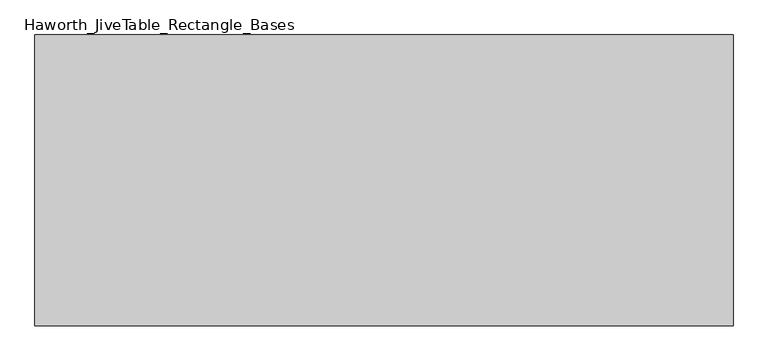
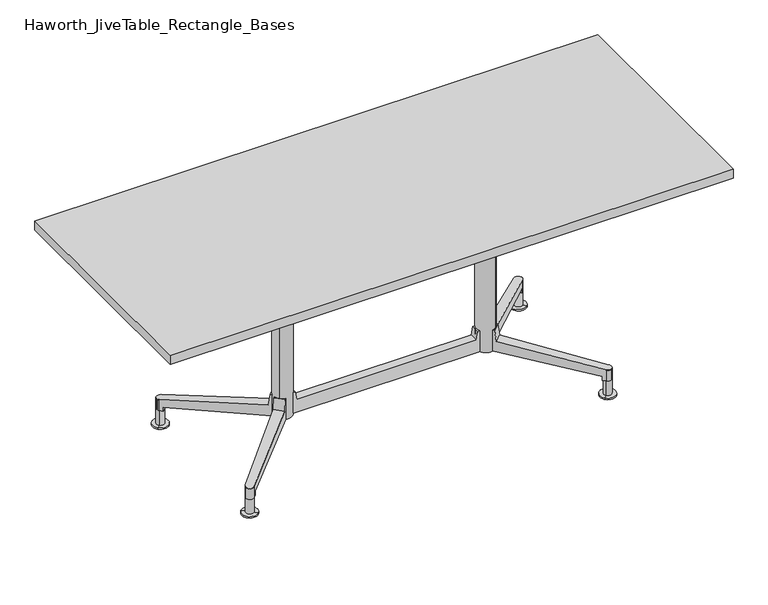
"""IFC4 building model written with IfcOpenShell, lengths in millimetres: furniture geometry, Haworth_JiveTable_Rectangle_Bases : 30d 72w 29h - Bridge Base - With Glides."""

from ifc_helpers import new_model, si_unit, point, frame, frame_2d, origin, place, context, project, spatial, polyline, circle_curve, ellipse_curve, trimmed, segment, composite_curve, outline, extrude, source, transform, mapped, element, save
from ifc_brep_helpers import plane_surface, cylinder_surface, revolved_surface, advanced_brep


def haworth_jivetable_rectangle_bases_99646251(model_context):
    return source(origin(), model_context, "Body", "SolidModel", [
        advanced_brep(
        [(336.1202188, -29.5809469, 173.0375), (340.1956175, -33.5622418, 173.0375), (364.0160892, -10.3334455, 173.0375), (359.6080779, -5.8131549, 173.0375), (359.6080779, -5.8131549, 100.7245235), (336.1202188, -29.5809469, 100.6638214), (367.6154754, -14.024514, 136.3947533), (590.3836079, -242.4669153, 93.6625), (590.3836079, -242.4669153, 55.5625), (581.7510618, -233.614484, 55.5625), (581.7510618, -233.614484, 69.4767965), (572.6352994, -260.6347312, 93.5800076), (572.6352994, -260.6347312, 55.5625), (563.3472577, -251.5611569, 69.4767965), (563.3472577, -251.5611569, 55.5625), (343.8845468, -37.1659913, 136.3947533)],
        [
            (0, 1),
            (1, 2),
            (2, 3),
            (3, 0, circle_curve(frame((329.9561804, 0.0, 173.0375), z_axis=(0.0, 0.0, -1.0), x_axis=(0.7071067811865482, -0.707106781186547, 0.0)), 30.2163497)),
            (3, 4),
            (4, 5, ellipse_curve(frame((329.9561804, 0.0, 103.1662942), z_axis=(-0.06823553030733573, 0.069973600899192, -0.9952123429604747), x_axis=(0.6948166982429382, -0.712514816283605, -0.09773634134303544)), 30.3617112, 30.2163497)),
            (5, 0),
            (2, 6),
            (6, 7),
            (7, 8),
            (8, 9),
            (9, 10),
            (10, 4),
            (11, 12),
            (12, 8, circle_curve(frame((581.4033518, -251.4471714, 55.5625), z_axis=(0.0, 0.0, 1.0), x_axis=(0.7071067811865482, -0.707106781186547, 0.0)), 12.7)),
            (7, 11, ellipse_curve(frame((581.4033518, -251.4471714, 93.6411126), z_axis=(-0.0926726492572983, 0.09503317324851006, -0.9911510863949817), x_axis=(-0.6919812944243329, 0.7096071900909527, 0.13273855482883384)), 12.8133845, 12.7)),
            (5, 13),
            (13, 14),
            (14, 12),
            (11, 15),
            (15, 1),
            (6, 15),
            (10, 13),
            (9, 14),
        ],
        [
            plane_surface(frame((351.3223662, -21.3661858, 173.0375), z_axis=(0.0, 0.0, 1.0000000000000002), x_axis=(0.707106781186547, 0.7071067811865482, 0.0))),
            revolved_surface(polyline([(351.32236617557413, -21.366185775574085, 100.19885163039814), (351.32236617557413, -21.366185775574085, 173.0375)]), (329.9561804, 0.0, 30.1625), (0.0, 0.0, -1.0)),
            plane_surface(frame((359.6080779, -5.8131549, 173.0375), z_axis=(0.7159425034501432, 0.6981592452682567, 0.0), x_axis=(0.0, 0.0, -1.0))),
            cylinder_surface(frame((581.4033518, -251.4471714, 30.1625), z_axis=(0.0, 0.0, 1.0), x_axis=(0.7071067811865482, -0.707106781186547, 0.0)), 12.7),
            plane_surface(frame((572.6352994, -260.6347312, 173.0375), z_axis=(-0.6987999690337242, -0.71531713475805, 0.0), x_axis=(0.0, 0.0, -1.0))),
            plane_surface(frame((583.8535264, -293.1819331, 89.4104246), z_axis=(0.0926726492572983, -0.09503317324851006, 0.9911510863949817), x_axis=(0.7159425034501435, 0.6981592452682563, 0.0))),
            plane_surface(frame((338.9188379, -42.0083573, 136.3947533), z_axis=(0.6913498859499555, -0.708959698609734, 0.13932509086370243), x_axis=(0.7159425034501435, 0.6981592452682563, 0.0))),
            plane_surface(frame((313.4245885, -15.8067112, 103.1883894), z_axis=(-0.06823553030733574, 0.06997360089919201, -0.9952123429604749), x_axis=(0.7159425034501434, 0.6981592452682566, 0.0))),
            plane_surface(frame((553.0834232, -261.5700486, 69.4767965), z_axis=(-0.6981592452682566, 0.7159425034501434, 0.0), x_axis=(0.7159425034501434, 0.6981592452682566, 0.0))),
            plane_surface(frame((553.0834232, -261.5700486, 55.5625), z_axis=(0.0, 0.0, -1.0000000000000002), x_axis=(0.7159425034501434, 0.6981592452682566, 0.0))),
        ],
        [
            (0, [[1, 2, 3, 4]]),
            (1, [[5, 6, 7, -4]]),
            (2, [[8, 9, 10, 11, 12, 13, -5, -3]]),
            (3, [[14, 15, -10, 16]]),
            (4, [[-7, 17, 18, 19, -14, 20, 21, -1]]),
            (5, [[-20, -16, -9, 22]]),
            (6, [[-8, -2, -21, -22]]),
            (7, [[-17, -6, -13, 23]]),
            (8, [[-12, 24, -18, -23]]),
            (9, [[-11, -15, -19, -24]]),
        ],
    ),
        advanced_brep(
        [(336.1202188, 29.5809469, 173.0375), (359.6080779, 5.8131549, 173.0375), (364.0160892, 10.3334455, 173.0375), (340.1956175, 33.5622418, 173.0375), (336.1202188, 29.5809469, 100.6638214), (359.6080779, 5.8131549, 100.7245235), (581.7510618, 233.614484, 69.4767965), (581.7510618, 233.614484, 55.5625), (590.3836079, 242.4669153, 55.5625), (590.3836079, 242.4669153, 93.6625), (367.6154754, 14.024514, 136.3947533), (572.6352994, 260.6347312, 93.5800076), (572.6352994, 260.6347312, 55.5625), (343.8845468, 37.1659913, 136.3947533), (563.3472577, 251.5611569, 55.5625), (563.3472577, 251.5611569, 69.4767965)],
        [
            (0, 1, circle_curve(frame((329.9561804, 0.0, 173.0375), z_axis=(0.0, 0.0, -1.0), x_axis=(0.7071067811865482, 0.707106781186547, 0.0)), 30.2163497)),
            (1, 2),
            (2, 3),
            (3, 0),
            (0, 4),
            (4, 5, ellipse_curve(frame((329.9561804, 0.0, 103.1662942), z_axis=(-0.06823553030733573, -0.069973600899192, -0.9952123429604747), x_axis=(0.6948166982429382, 0.712514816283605, -0.09773634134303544)), 30.3617112, 30.2163497)),
            (5, 1),
            (5, 6),
            (6, 7),
            (7, 8),
            (8, 9),
            (9, 10),
            (10, 2),
            (11, 9, ellipse_curve(frame((581.4033518, 251.4471714, 93.6411126), z_axis=(-0.0926726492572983, -0.09503317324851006, -0.9911510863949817), x_axis=(-0.6919812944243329, -0.7096071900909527, 0.13273855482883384)), 12.8133845, 12.7)),
            (8, 12, circle_curve(frame((581.4033518, 251.4471714, 55.5625), z_axis=(0.0, 0.0, 1.0), x_axis=(0.7071067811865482, 0.707106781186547, 0.0)), 12.7)),
            (12, 11),
            (3, 13),
            (13, 11),
            (12, 14),
            (14, 15),
            (15, 4),
            (13, 10),
            (15, 6),
            (14, 7),
        ],
        [
            plane_surface(frame((351.3223662, 21.3661858, 173.0375), z_axis=(0.0, 0.0, 1.0000000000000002), x_axis=(0.707106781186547, -0.7071067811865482, 0.0))),
            revolved_surface(polyline([(351.32236617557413, 21.366185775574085, 100.19885163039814), (351.32236617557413, 21.366185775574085, 173.0375)]), (329.9561804, 0.0, 30.1625), (0.0, 0.0, -1.0)),
            plane_surface(frame((359.6080779, 5.8131549, 173.0375), z_axis=(0.7159425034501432, -0.6981592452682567, 0.0), x_axis=(0.0, 0.0, -1.0))),
            cylinder_surface(frame((581.4033518, 251.4471714, 30.1625), z_axis=(0.0, 0.0, 1.0), x_axis=(0.7071067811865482, 0.707106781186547, 0.0)), 12.7),
            plane_surface(frame((572.6352994, 260.6347312, 173.0375), z_axis=(-0.6987999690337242, 0.71531713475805, 0.0), x_axis=(0.0, 0.0, -1.0))),
            plane_surface(frame((583.8535264, 293.1819331, 89.4104246), z_axis=(0.0926726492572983, 0.09503317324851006, 0.9911510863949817), x_axis=(0.7159425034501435, -0.6981592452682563, 0.0))),
            plane_surface(frame((338.9188379, 42.0083573, 136.3947533), z_axis=(0.6913498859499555, 0.708959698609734, 0.13932509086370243), x_axis=(0.7159425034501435, -0.6981592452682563, 0.0))),
            plane_surface(frame((313.4245885, 15.8067112, 103.1883894), z_axis=(-0.06823553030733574, -0.06997360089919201, -0.9952123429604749), x_axis=(0.7159425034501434, -0.6981592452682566, 0.0))),
            plane_surface(frame((553.0834232, 261.5700486, 69.4767965), z_axis=(-0.6981592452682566, -0.7159425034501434, 0.0), x_axis=(0.7159425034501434, -0.6981592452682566, 0.0))),
            plane_surface(frame((553.0834232, 261.5700486, 55.5625), z_axis=(0.0, 0.0, -1.0000000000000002), x_axis=(0.7159425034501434, -0.6981592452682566, 0.0))),
        ],
        [
            (0, [[1, 2, 3, 4]]),
            (1, [[-1, 5, 6, 7]]),
            (2, [[-2, -7, 8, 9, 10, 11, 12, 13]]),
            (3, [[14, -11, 15, 16]]),
            (4, [[-4, 17, 18, -16, 19, 20, 21, -5]]),
            (5, [[22, -12, -14, -18]]),
            (6, [[-22, -17, -3, -13]]),
            (7, [[23, -8, -6, -21]]),
            (8, [[-23, -20, 24, -9]]),
            (9, [[-24, -19, -15, -10]]),
        ],
    ),
        advanced_brep(
        [(581.5088103, -251.3417129, 92.075), (572.5285542, -260.321969, 92.075), (590.4890664, -242.3614568, 92.075), (563.5482981, -269.3022251, 0.0), (581.5088103, -251.3417129, 0.0), (599.4693226, -233.3812007, 0.0), (563.5482981, -269.3022251, 4.7625), (599.4693226, -233.3812007, 4.7625), (572.5285542, -260.321969, 4.7625), (590.4890664, -242.3614568, 4.7625)],
        [
            (0, 1),
            (1, 2, circle_curve(frame((581.5088103, -251.3417129, 92.075), z_axis=(0.0, 0.0, 1.0), x_axis=(0.7071067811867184, 0.7071067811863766, 0.0)), 12.7)),
            (2, 0),
            (2, 1, circle_curve(frame((581.5088103, -251.3417129, 92.075), z_axis=(0.0, 0.0, 1.0), x_axis=(0.7071067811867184, 0.7071067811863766, 0.0)), 12.7)),
            (3, 4),
            (4, 5),
            (5, 3, circle_curve(frame((581.5088103, -251.3417129, 0.0), z_axis=(0.0, 0.0, -1.0), x_axis=(0.7071067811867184, 0.7071067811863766, 0.0)), 25.4)),
            (3, 5, circle_curve(frame((581.5088103, -251.3417129, 0.0), z_axis=(0.0, 0.0, -1.0), x_axis=(0.7071067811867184, 0.7071067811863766, 0.0)), 25.4)),
            (6, 3),
            (5, 7),
            (7, 6, circle_curve(frame((581.5088103, -251.3417129, 4.7625), z_axis=(0.0, 0.0, -1.0), x_axis=(0.7071067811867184, 0.7071067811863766, 0.0)), 25.4)),
            (6, 7, circle_curve(frame((581.5088103, -251.3417129, 4.7625), z_axis=(0.0, 0.0, -1.0), x_axis=(0.7071067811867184, 0.7071067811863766, 0.0)), 25.4)),
            (8, 6),
            (7, 9),
            (9, 8, circle_curve(frame((581.5088103, -251.3417129, 4.7625), z_axis=(0.0, 0.0, -1.0), x_axis=(0.7071067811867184, 0.7071067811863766, 0.0)), 12.7)),
            (8, 9, circle_curve(frame((581.5088103, -251.3417129, 4.7625), z_axis=(0.0, 0.0, -1.0), x_axis=(0.7071067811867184, 0.7071067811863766, 0.0)), 12.7)),
            (1, 8),
            (9, 2),
        ],
        [
            plane_surface(frame((581.5088103, -251.3417129, 92.075), z_axis=(0.0, 0.0, 1.0), x_axis=(0.7071067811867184, 0.7071067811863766, 0.0))),
            plane_surface(frame((581.5088103, -251.3417129, 0.0), z_axis=(0.0, 0.0, -1.0), x_axis=(0.7071067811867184, 0.7071067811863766, 0.0))),
            cylinder_surface(frame((581.5088103, -251.3417129, 106.1427212), z_axis=(0.0, 0.0, 1.0), x_axis=(0.7071067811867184, 0.7071067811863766, 0.0)), 25.4),
            plane_surface(frame((581.5088103, -251.3417129, 4.7625), z_axis=(0.0, 0.0, 1.0), x_axis=(0.7071067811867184, 0.7071067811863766, 0.0))),
            cylinder_surface(frame((581.5088103, -251.3417129, 106.1427212), z_axis=(0.0, 0.0, 1.0), x_axis=(0.7071067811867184, 0.7071067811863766, 0.0)), 12.7),
        ],
        [
            (0, [[1, 2, 3]]),
            (0, [[-3, 4, -1]]),
            (1, [[5, 6, 7]]),
            (1, [[-6, -5, 8]]),
            (2, [[9, -7, 10, 11]]),
            (2, [[-10, -8, -9, 12]]),
            (3, [[13, -11, 14, 15]]),
            (3, [[-14, -12, -13, 16]]),
            (4, [[17, -15, 18, -2]]),
            (4, [[-18, -16, -17, -4]]),
        ],
    ),
        advanced_brep(
        [(572.650464, 260.4438788, 92.075), (581.6307201, 251.4636227, 92.075), (590.6109762, 242.4833666, 92.075), (581.6307201, 251.4636227, 0.0), (563.6702079, 269.4241349, 0.0), (599.5912323, 233.5031104, 0.0), (563.6702079, 269.4241349, 4.7625), (599.5912323, 233.5031104, 4.7625), (572.650464, 260.4438788, 4.7625), (590.6109762, 242.4833666, 4.7625)],
        [
            (0, 1),
            (1, 2),
            (2, 0, circle_curve(frame((581.6307201, 251.4636227, 92.075), z_axis=(0.0, 0.0, 1.0), x_axis=(0.7071067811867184, -0.7071067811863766, 0.0)), 12.7)),
            (0, 2, circle_curve(frame((581.6307201, 251.4636227, 92.075), z_axis=(0.0, 0.0, 1.0), x_axis=(0.7071067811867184, -0.7071067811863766, 0.0)), 12.7)),
            (3, 4),
            (4, 5, circle_curve(frame((581.6307201, 251.4636227, 0.0), z_axis=(0.0, 0.0, -1.0), x_axis=(0.7071067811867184, -0.7071067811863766, 0.0)), 25.4)),
            (5, 3),
            (5, 4, circle_curve(frame((581.6307201, 251.4636227, 0.0), z_axis=(0.0, 0.0, -1.0), x_axis=(0.7071067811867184, -0.7071067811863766, 0.0)), 25.4)),
            (4, 6),
            (6, 7, circle_curve(frame((581.6307201, 251.4636227, 4.7625), z_axis=(0.0, 0.0, -1.0), x_axis=(0.7071067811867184, -0.7071067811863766, 0.0)), 25.4)),
            (7, 5),
            (7, 6, circle_curve(frame((581.6307201, 251.4636227, 4.7625), z_axis=(0.0, 0.0, -1.0), x_axis=(0.7071067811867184, -0.7071067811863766, 0.0)), 25.4)),
            (6, 8),
            (8, 9, circle_curve(frame((581.6307201, 251.4636227, 4.7625), z_axis=(0.0, 0.0, -1.0), x_axis=(0.7071067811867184, -0.7071067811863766, 0.0)), 12.7)),
            (9, 7),
            (9, 8, circle_curve(frame((581.6307201, 251.4636227, 4.7625), z_axis=(0.0, 0.0, -1.0), x_axis=(0.7071067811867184, -0.7071067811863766, 0.0)), 12.7)),
            (8, 0),
            (2, 9),
        ],
        [
            plane_surface(frame((581.6307201, 251.4636227, 92.075), z_axis=(0.0, 0.0, 1.0), x_axis=(0.7071067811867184, -0.7071067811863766, 0.0))),
            plane_surface(frame((581.6307201, 251.4636227, 0.0), z_axis=(0.0, 0.0, -1.0), x_axis=(0.7071067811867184, -0.7071067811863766, 0.0))),
            cylinder_surface(frame((581.6307201, 251.4636227, 106.1427212), z_axis=(0.0, 0.0, -1.0), x_axis=(0.7071067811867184, -0.7071067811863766, 0.0)), 25.4),
            plane_surface(frame((581.6307201, 251.4636227, 4.7625), z_axis=(0.0, 0.0, 1.0), x_axis=(0.7071067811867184, -0.7071067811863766, 0.0))),
            cylinder_surface(frame((581.6307201, 251.4636227, 106.1427212), z_axis=(0.0, 0.0, -1.0), x_axis=(0.7071067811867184, -0.7071067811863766, 0.0)), 12.7),
        ],
        [
            (0, [[1, 2, 3]]),
            (0, [[-2, -1, 4]]),
            (1, [[5, 6, 7]]),
            (1, [[-7, 8, -5]]),
            (2, [[9, 10, 11, -6]]),
            (2, [[-11, 12, -9, -8]]),
            (3, [[13, 14, 15, -10]]),
            (3, [[-15, 16, -13, -12]]),
            (4, [[17, -3, 18, -14]]),
            (4, [[-18, -4, -17, -16]]),
        ],
    ),
        extrude(outline(composite_curve([segment(trimmed(circle_curve(frame_2d((330.2, 0.0)), 29.972), [point((351.3934044, -21.1934044))], [point((309.0065956, 21.1934044))], False, "CARTESIAN"), True, "CONTINUOUS"), segment(trimmed(circle_curve(frame_2d((330.2, 0.0)), 29.972), [point((309.0065956, 21.1934044))], [point((351.3934044, -21.1934044))], False, "CARTESIAN"), True, "CONTINUOUS")], self_intersect=False)), frame((0.0, 0.0, 100.8404831), z_axis=(0.0, 0.0, 1.0), x_axis=(1.0, 0.0, 0.0)), (0.0, 0.0, 1.0), 599.2470169),
        extrude(outline(composite_curve([segment(trimmed(circle_curve(frame_2d((186.7802561, -143.4197439)), 8.9802561), [point((186.7802561, -152.4))], [point((177.8, -143.4197439))], False, "CARTESIAN"), True, "CONTINUOUS"), segment(polyline([(177.8, -143.4197439), (177.8, 143.4197439)]), True, "CONTINUOUS"), segment(trimmed(circle_curve(frame_2d((186.7802561, 143.4197439)), 8.9802561), [point((177.8, 143.4197439))], [point((186.7802561, 152.4))], False, "CARTESIAN"), True, "CONTINUOUS"), segment(polyline([(186.7802561, 152.4), (473.6197439, 152.4)]), True, "CONTINUOUS"), segment(trimmed(circle_curve(frame_2d((473.6197439, 143.4197439)), 8.9802561), [point((473.6197439, 152.4))], [point((482.6, 143.4197439))], False, "CARTESIAN"), True, "CONTINUOUS"), segment(polyline([(482.6, 143.4197439), (482.6, -143.4197439)]), True, "CONTINUOUS"), segment(trimmed(circle_curve(frame_2d((473.6197439, -143.4197439)), 8.9802561), [point((482.6, -143.4197439))], [point((473.6197439, -152.4))], False, "CARTESIAN"), True, "CONTINUOUS"), segment(polyline([(473.6197439, -152.4), (186.7802561, -152.4)]), True, "CONTINUOUS")], self_intersect=False)), frame((0.0, 0.0, 700.0875), z_axis=(0.0, 0.0, 1.0), x_axis=(1.0, 0.0, 0.0)), (0.0, 0.0, 1.0), 6.35),
        extrude(outline(polyline([(100.8404831, 304.8), (173.0375, 304.8), (173.0375, 296.823679), (144.9419311, 292.4031861), (144.9419311, -292.4031861), (173.0375, -296.823679), (173.0375, -304.8), (100.8404831, -304.8), (100.8404831, 304.8)])), frame((0.0, -14.0795819, 0.0), z_axis=(0.0, 1.0, 0.0), x_axis=(0.0, 0.0, 1.0)), (0.0, 0.0, 1.0), 28.7238281),
        advanced_brep(
        [(-336.1202188, -29.5809469, 173.0375), (-359.6080779, -5.8131549, 173.0375), (-364.0160892, -10.3334455, 173.0375), (-340.1956175, -33.5622418, 173.0375), (-336.1202188, -29.5809469, 100.6638214), (-359.6080779, -5.8131549, 100.7245235), (-581.7510618, -233.614484, 69.4767965), (-581.7510618, -233.614484, 55.5625), (-590.3836079, -242.4669153, 55.5625), (-590.3836079, -242.4669153, 93.6625), (-367.6154754, -14.024514, 136.3947533), (-572.6352994, -260.6347312, 93.5800076), (-572.6352994, -260.6347312, 55.5625), (-343.8845468, -37.1659913, 136.3947533), (-563.3472577, -251.5611569, 55.5625), (-563.3472577, -251.5611569, 69.4767965)],
        [
            (0, 1, circle_curve(frame((-329.9561804, 0.0, 173.0375), z_axis=(0.0, 0.0, -1.0), x_axis=(-0.7071067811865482, -0.707106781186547, 0.0)), 30.2163497)),
            (1, 2),
            (2, 3),
            (3, 0),
            (0, 4),
            (4, 5, ellipse_curve(frame((-329.9561804, 0.0, 103.1662942), z_axis=(0.06823553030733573, 0.069973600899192, -0.9952123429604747), x_axis=(-0.6948166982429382, -0.712514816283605, -0.09773634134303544)), 30.3617112, 30.2163497)),
            (5, 1),
            (5, 6),
            (6, 7),
            (7, 8),
            (8, 9),
            (9, 10),
            (10, 2),
            (11, 9, ellipse_curve(frame((-581.4033518, -251.4471714, 93.6411126), z_axis=(0.0926726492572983, 0.09503317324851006, -0.9911510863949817), x_axis=(0.6919812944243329, 0.7096071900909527, 0.13273855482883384)), 12.8133845, 12.7)),
            (8, 12, circle_curve(frame((-581.4033518, -251.4471714, 55.5625), z_axis=(0.0, 0.0, 1.0), x_axis=(-0.7071067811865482, -0.707106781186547, 0.0)), 12.7)),
            (12, 11),
            (3, 13),
            (13, 11),
            (12, 14),
            (14, 15),
            (15, 4),
            (13, 10),
            (15, 6),
            (14, 7),
        ],
        [
            plane_surface(frame((-351.3223662, -21.3661858, 173.0375), z_axis=(0.0, 0.0, 1.0000000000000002), x_axis=(-0.707106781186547, 0.7071067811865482, 0.0))),
            revolved_surface(polyline([(-351.32236617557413, -21.366185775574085, 100.19885163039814), (-351.32236617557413, -21.366185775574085, 173.0375)]), (-329.9561804, 0.0, 30.1625), (0.0, 0.0, -1.0)),
            plane_surface(frame((-359.6080779, -5.8131549, 173.0375), z_axis=(-0.7159425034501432, 0.6981592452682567, 0.0), x_axis=(0.0, 0.0, -1.0))),
            cylinder_surface(frame((-581.4033518, -251.4471714, 30.1625), z_axis=(0.0, 0.0, 1.0), x_axis=(-0.7071067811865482, -0.707106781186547, 0.0)), 12.7),
            plane_surface(frame((-572.6352994, -260.6347312, 173.0375), z_axis=(0.6987999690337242, -0.71531713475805, 0.0), x_axis=(0.0, 0.0, -1.0))),
            plane_surface(frame((-583.8535264, -293.1819331, 89.4104246), z_axis=(-0.0926726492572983, -0.09503317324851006, 0.9911510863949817), x_axis=(-0.7159425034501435, 0.6981592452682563, 0.0))),
            plane_surface(frame((-338.9188379, -42.0083573, 136.3947533), z_axis=(-0.6913498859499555, -0.708959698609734, 0.13932509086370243), x_axis=(-0.7159425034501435, 0.6981592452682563, 0.0))),
            plane_surface(frame((-313.4245885, -15.8067112, 103.1883894), z_axis=(0.06823553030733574, 0.06997360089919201, -0.9952123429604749), x_axis=(-0.7159425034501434, 0.6981592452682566, 0.0))),
            plane_surface(frame((-553.0834232, -261.5700486, 69.4767965), z_axis=(0.6981592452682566, 0.7159425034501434, 0.0), x_axis=(-0.7159425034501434, 0.6981592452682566, 0.0))),
            plane_surface(frame((-553.0834232, -261.5700486, 55.5625), z_axis=(0.0, 0.0, -1.0000000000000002), x_axis=(-0.7159425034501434, 0.6981592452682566, 0.0))),
        ],
        [
            (0, [[1, 2, 3, 4]]),
            (1, [[-1, 5, 6, 7]]),
            (2, [[-2, -7, 8, 9, 10, 11, 12, 13]]),
            (3, [[14, -11, 15, 16]]),
            (4, [[-4, 17, 18, -16, 19, 20, 21, -5]]),
            (5, [[22, -12, -14, -18]]),
            (6, [[-22, -17, -3, -13]]),
            (7, [[23, -8, -6, -21]]),
            (8, [[-23, -20, 24, -9]]),
            (9, [[-24, -19, -15, -10]]),
        ],
    ),
        advanced_brep(
        [(-336.1202188, 29.5809469, 173.0375), (-340.1956175, 33.5622418, 173.0375), (-364.0160892, 10.3334455, 173.0375), (-359.6080779, 5.8131549, 173.0375), (-359.6080779, 5.8131549, 100.7245235), (-336.1202188, 29.5809469, 100.6638214), (-367.6154754, 14.024514, 136.3947533), (-590.3836079, 242.4669153, 93.6625), (-590.3836079, 242.4669153, 55.5625), (-581.7510618, 233.614484, 55.5625), (-581.7510618, 233.614484, 69.4767965), (-572.6352994, 260.6347312, 93.5800076), (-572.6352994, 260.6347312, 55.5625), (-563.3472577, 251.5611569, 69.4767965), (-563.3472577, 251.5611569, 55.5625), (-343.8845468, 37.1659913, 136.3947533)],
        [
            (0, 1),
            (1, 2),
            (2, 3),
            (3, 0, circle_curve(frame((-329.9561804, 0.0, 173.0375), z_axis=(0.0, 0.0, -1.0), x_axis=(-0.7071067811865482, 0.707106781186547, 0.0)), 30.2163497)),
            (3, 4),
            (4, 5, ellipse_curve(frame((-329.9561804, 0.0, 103.1662942), z_axis=(0.06823553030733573, -0.069973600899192, -0.9952123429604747), x_axis=(-0.6948166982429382, 0.712514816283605, -0.09773634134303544)), 30.3617112, 30.2163497)),
            (5, 0),
            (2, 6),
            (6, 7),
            (7, 8),
            (8, 9),
            (9, 10),
            (10, 4),
            (11, 12),
            (12, 8, circle_curve(frame((-581.4033518, 251.4471714, 55.5625), z_axis=(0.0, 0.0, 1.0), x_axis=(-0.7071067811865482, 0.707106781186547, 0.0)), 12.7)),
            (7, 11, ellipse_curve(frame((-581.4033518, 251.4471714, 93.6411126), z_axis=(0.0926726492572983, -0.09503317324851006, -0.9911510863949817), x_axis=(0.6919812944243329, -0.7096071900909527, 0.13273855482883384)), 12.8133845, 12.7)),
            (5, 13),
            (13, 14),
            (14, 12),
            (11, 15),
            (15, 1),
            (6, 15),
            (10, 13),
            (9, 14),
        ],
        [
            plane_surface(frame((-351.3223662, 21.3661858, 173.0375), z_axis=(0.0, 0.0, 1.0000000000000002), x_axis=(-0.707106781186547, -0.7071067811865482, 0.0))),
            revolved_surface(polyline([(-351.32236617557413, 21.366185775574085, 100.19885163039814), (-351.32236617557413, 21.366185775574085, 173.0375)]), (-329.9561804, 0.0, 30.1625), (0.0, 0.0, -1.0)),
            plane_surface(frame((-359.6080779, 5.8131549, 173.0375), z_axis=(-0.7159425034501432, -0.6981592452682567, 0.0), x_axis=(0.0, 0.0, -1.0))),
            cylinder_surface(frame((-581.4033518, 251.4471714, 30.1625), z_axis=(0.0, 0.0, 1.0), x_axis=(-0.7071067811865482, 0.707106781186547, 0.0)), 12.7),
            plane_surface(frame((-572.6352994, 260.6347312, 173.0375), z_axis=(0.6987999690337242, 0.71531713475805, 0.0), x_axis=(0.0, 0.0, -1.0))),
            plane_surface(frame((-583.8535264, 293.1819331, 89.4104246), z_axis=(-0.0926726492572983, 0.09503317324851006, 0.9911510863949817), x_axis=(-0.7159425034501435, -0.6981592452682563, 0.0))),
            plane_surface(frame((-338.9188379, 42.0083573, 136.3947533), z_axis=(-0.6913498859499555, 0.708959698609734, 0.13932509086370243), x_axis=(-0.7159425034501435, -0.6981592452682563, 0.0))),
            plane_surface(frame((-313.4245885, 15.8067112, 103.1883894), z_axis=(0.06823553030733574, -0.06997360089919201, -0.9952123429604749), x_axis=(-0.7159425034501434, -0.6981592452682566, 0.0))),
            plane_surface(frame((-553.0834232, 261.5700486, 69.4767965), z_axis=(0.6981592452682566, -0.7159425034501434, 0.0), x_axis=(-0.7159425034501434, -0.6981592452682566, 0.0))),
            plane_surface(frame((-553.0834232, 261.5700486, 55.5625), z_axis=(0.0, 0.0, -1.0000000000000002), x_axis=(-0.7159425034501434, -0.6981592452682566, 0.0))),
        ],
        [
            (0, [[1, 2, 3, 4]]),
            (1, [[5, 6, 7, -4]]),
            (2, [[8, 9, 10, 11, 12, 13, -5, -3]]),
            (3, [[14, 15, -10, 16]]),
            (4, [[-7, 17, 18, 19, -14, 20, 21, -1]]),
            (5, [[-20, -16, -9, 22]]),
            (6, [[-8, -2, -21, -22]]),
            (7, [[-17, -6, -13, 23]]),
            (8, [[-12, 24, -18, -23]]),
            (9, [[-11, -15, -19, -24]]),
        ],
    ),
        advanced_brep(
        [(-581.5088103, -251.3417129, 92.075), (-590.4890664, -242.3614568, 92.075), (-572.5285542, -260.321969, 92.075), (-563.5482981, -269.3022251, 0.0), (-599.4693226, -233.3812007, 0.0), (-581.5088103, -251.3417129, 0.0), (-563.5482981, -269.3022251, 4.7625), (-599.4693226, -233.3812007, 4.7625), (-572.5285542, -260.321969, 4.7625), (-590.4890664, -242.3614568, 4.7625)],
        [
            (0, 1),
            (1, 2, circle_curve(frame((-581.5088103, -251.3417129, 92.075), z_axis=(0.0, 0.0, 1.0), x_axis=(-0.7071067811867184, 0.7071067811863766, 0.0)), 12.7)),
            (2, 0),
            (2, 1, circle_curve(frame((-581.5088103, -251.3417129, 92.075), z_axis=(0.0, 0.0, 1.0), x_axis=(-0.7071067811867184, 0.7071067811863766, 0.0)), 12.7)),
            (3, 4, circle_curve(frame((-581.5088103, -251.3417129, 0.0), z_axis=(0.0, 0.0, -1.0), x_axis=(-0.7071067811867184, 0.7071067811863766, 0.0)), 25.4)),
            (4, 5),
            (5, 3),
            (4, 3, circle_curve(frame((-581.5088103, -251.3417129, 0.0), z_axis=(0.0, 0.0, -1.0), x_axis=(-0.7071067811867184, 0.7071067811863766, 0.0)), 25.4)),
            (6, 7, circle_curve(frame((-581.5088103, -251.3417129, 4.7625), z_axis=(0.0, 0.0, -1.0), x_axis=(-0.7071067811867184, 0.7071067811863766, 0.0)), 25.4)),
            (7, 4),
            (3, 6),
            (7, 6, circle_curve(frame((-581.5088103, -251.3417129, 4.7625), z_axis=(0.0, 0.0, -1.0), x_axis=(-0.7071067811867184, 0.7071067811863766, 0.0)), 25.4)),
            (8, 9, circle_curve(frame((-581.5088103, -251.3417129, 4.7625), z_axis=(0.0, 0.0, -1.0), x_axis=(-0.7071067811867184, 0.7071067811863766, 0.0)), 12.7)),
            (9, 7),
            (6, 8),
            (9, 8, circle_curve(frame((-581.5088103, -251.3417129, 4.7625), z_axis=(0.0, 0.0, -1.0), x_axis=(-0.7071067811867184, 0.7071067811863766, 0.0)), 12.7)),
            (1, 9),
            (8, 2),
        ],
        [
            plane_surface(frame((-581.5088103, -251.3417129, 92.075), z_axis=(0.0, 0.0, 1.0), x_axis=(-0.7071067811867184, 0.7071067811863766, 0.0))),
            plane_surface(frame((-581.5088103, -251.3417129, 0.0), z_axis=(0.0, 0.0, -1.0), x_axis=(-0.7071067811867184, 0.7071067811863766, 0.0))),
            cylinder_surface(frame((-581.5088103, -251.3417129, 106.1427212), z_axis=(0.0, 0.0, 1.0), x_axis=(-0.7071067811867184, 0.7071067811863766, 0.0)), 25.4),
            plane_surface(frame((-581.5088103, -251.3417129, 4.7625), z_axis=(0.0, 0.0, 1.0), x_axis=(-0.7071067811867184, 0.7071067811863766, 0.0))),
            cylinder_surface(frame((-581.5088103, -251.3417129, 106.1427212), z_axis=(0.0, 0.0, 1.0), x_axis=(-0.7071067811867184, 0.7071067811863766, 0.0)), 12.7),
        ],
        [
            (0, [[1, 2, 3]]),
            (0, [[-3, 4, -1]]),
            (1, [[5, 6, 7]]),
            (1, [[8, -7, -6]]),
            (2, [[9, 10, -5, 11]]),
            (2, [[12, -11, -8, -10]]),
            (3, [[13, 14, -9, 15]]),
            (3, [[16, -15, -12, -14]]),
            (4, [[-2, 17, -13, 18]]),
            (4, [[-4, -18, -16, -17]]),
        ],
    ),
        advanced_brep(
        [(-572.650464, 260.4438788, 92.075), (-590.6109762, 242.4833666, 92.075), (-581.6307201, 251.4636227, 92.075), (-581.6307201, 251.4636227, 0.0), (-599.5912323, 233.5031104, 0.0), (-563.6702079, 269.4241349, 0.0), (-599.5912323, 233.5031104, 4.7625), (-563.6702079, 269.4241349, 4.7625), (-590.6109762, 242.4833666, 4.7625), (-572.650464, 260.4438788, 4.7625)],
        [
            (0, 1, circle_curve(frame((-581.6307201, 251.4636227, 92.075), z_axis=(0.0, 0.0, 1.0), x_axis=(-0.7071067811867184, -0.7071067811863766, 0.0)), 12.7)),
            (1, 2),
            (2, 0),
            (1, 0, circle_curve(frame((-581.6307201, 251.4636227, 92.075), z_axis=(0.0, 0.0, 1.0), x_axis=(-0.7071067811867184, -0.7071067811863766, 0.0)), 12.7)),
            (3, 4),
            (4, 5, circle_curve(frame((-581.6307201, 251.4636227, 0.0), z_axis=(0.0, 0.0, -1.0), x_axis=(-0.7071067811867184, -0.7071067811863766, 0.0)), 25.4)),
            (5, 3),
            (5, 4, circle_curve(frame((-581.6307201, 251.4636227, 0.0), z_axis=(0.0, 0.0, -1.0), x_axis=(-0.7071067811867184, -0.7071067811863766, 0.0)), 25.4)),
            (4, 6),
            (6, 7, circle_curve(frame((-581.6307201, 251.4636227, 4.7625), z_axis=(0.0, 0.0, -1.0), x_axis=(-0.7071067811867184, -0.7071067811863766, 0.0)), 25.4)),
            (7, 5),
            (7, 6, circle_curve(frame((-581.6307201, 251.4636227, 4.7625), z_axis=(0.0, 0.0, -1.0), x_axis=(-0.7071067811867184, -0.7071067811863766, 0.0)), 25.4)),
            (6, 8),
            (8, 9, circle_curve(frame((-581.6307201, 251.4636227, 4.7625), z_axis=(0.0, 0.0, -1.0), x_axis=(-0.7071067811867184, -0.7071067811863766, 0.0)), 12.7)),
            (9, 7),
            (9, 8, circle_curve(frame((-581.6307201, 251.4636227, 4.7625), z_axis=(0.0, 0.0, -1.0), x_axis=(-0.7071067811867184, -0.7071067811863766, 0.0)), 12.7)),
            (8, 1),
            (0, 9),
        ],
        [
            plane_surface(frame((-581.6307201, 251.4636227, 92.075), z_axis=(0.0, 0.0, 1.0), x_axis=(-0.7071067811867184, -0.7071067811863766, 0.0))),
            plane_surface(frame((-581.6307201, 251.4636227, 0.0), z_axis=(0.0, 0.0, -1.0), x_axis=(-0.7071067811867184, -0.7071067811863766, 0.0))),
            cylinder_surface(frame((-581.6307201, 251.4636227, 106.1427212), z_axis=(0.0, 0.0, -1.0), x_axis=(-0.7071067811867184, -0.7071067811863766, 0.0)), 25.4),
            plane_surface(frame((-581.6307201, 251.4636227, 4.7625), z_axis=(0.0, 0.0, 1.0), x_axis=(-0.7071067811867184, -0.7071067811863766, 0.0))),
            cylinder_surface(frame((-581.6307201, 251.4636227, 106.1427212), z_axis=(0.0, 0.0, -1.0), x_axis=(-0.7071067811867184, -0.7071067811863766, 0.0)), 12.7),
        ],
        [
            (0, [[1, 2, 3]]),
            (0, [[4, -3, -2]]),
            (1, [[5, 6, 7]]),
            (1, [[-7, 8, -5]]),
            (2, [[-6, 9, 10, 11]]),
            (2, [[-8, -11, 12, -9]]),
            (3, [[-10, 13, 14, 15]]),
            (3, [[-12, -15, 16, -13]]),
            (4, [[-14, 17, -1, 18]]),
            (4, [[-16, -18, -4, -17]]),
        ],
    ),
        extrude(outline(composite_curve([segment(trimmed(circle_curve(frame_2d((-330.2, 0.0)), 29.972), [point((-351.3934044, -21.1934044))], [point((-309.0065956, 21.1934044))], False, "CARTESIAN"), True, "CONTINUOUS"), segment(trimmed(circle_curve(frame_2d((-330.2, 0.0)), 29.972), [point((-309.0065956, 21.1934044))], [point((-351.3934044, -21.1934044))], False, "CARTESIAN"), True, "CONTINUOUS")], self_intersect=False)), frame((0.0, 0.0, 100.8404831), z_axis=(0.0, 0.0, 1.0), x_axis=(1.0, 0.0, 0.0)), (0.0, 0.0, 1.0), 599.2470169),
        extrude(outline(composite_curve([segment(polyline([(-186.7802561, -152.4), (-473.6197439, -152.4)]), True, "CONTINUOUS"), segment(trimmed(circle_curve(frame_2d((-473.6197439, -143.4197439)), 8.9802561), [point((-473.6197439, -152.4))], [point((-482.6, -143.4197439))], False, "CARTESIAN"), True, "CONTINUOUS"), segment(polyline([(-482.6, -143.4197439), (-482.6, 143.4197439)]), True, "CONTINUOUS"), segment(trimmed(circle_curve(frame_2d((-473.6197439, 143.4197439)), 8.9802561), [point((-482.6, 143.4197439))], [point((-473.6197439, 152.4))], False, "CARTESIAN"), True, "CONTINUOUS"), segment(polyline([(-473.6197439, 152.4), (-186.7802561, 152.4)]), True, "CONTINUOUS"), segment(trimmed(circle_curve(frame_2d((-186.7802561, 143.4197439)), 8.9802561), [point((-186.7802561, 152.4))], [point((-177.8, 143.4197439))], False, "CARTESIAN"), True, "CONTINUOUS"), segment(polyline([(-177.8, 143.4197439), (-177.8, -143.4197439)]), True, "CONTINUOUS"), segment(trimmed(circle_curve(frame_2d((-186.7802561, -143.4197439)), 8.9802561), [point((-177.8, -143.4197439))], [point((-186.7802561, -152.4))], False, "CARTESIAN"), True, "CONTINUOUS")], self_intersect=False)), frame((0.0, 0.0, 700.0875), z_axis=(0.0, 0.0, 1.0), x_axis=(1.0, 0.0, 0.0)), (0.0, 0.0, 1.0), 6.35),
        extrude(outline(polyline([(914.4, 381.0), (914.4, -381.0), (-914.4, -381.0), (-914.4, 381.0), (914.4, 381.0)])), frame((0.0, 0.0, 706.4375), z_axis=(0.0, 0.0, 1.0), x_axis=(1.0, 0.0, 0.0)), (0.0, 0.0, 1.0), 30.1625),
    ])


if __name__ == "__main__":
    model = new_model("IFC4")
    model_context = context("Model", 3, world=origin())
    ifc_project = project(units=[si_unit("LENGTHUNIT", "METRE", prefix="MILLI")], contexts=[model_context])
    site = spatial("IfcSite", under=ifc_project)
    building = spatial("IfcBuilding", under=site)
    placement = place(None, origin())
    haworth_jivetable_rectangle_bases_shape = haworth_jivetable_rectangle_bases_99646251(model_context)
    element("IfcFurniture", 1, ObjectType="Haworth_JiveTable_Rectangle_Bases : 30d 72w 29h - Bridge Base - With Glides", at=placement, inside=building, context=model_context, shape_type="MappedRepresentation", body=[
        mapped(haworth_jivetable_rectangle_bases_shape, transform((0.0, 0.0, 0.0), x_axis=(1.0, 0.0, 0.0), y_axis=(0.0, 1.0, 0.0), z_axis=(0.0, 0.0, 1.0))),
    ])
    save(model, "model.ifc")
